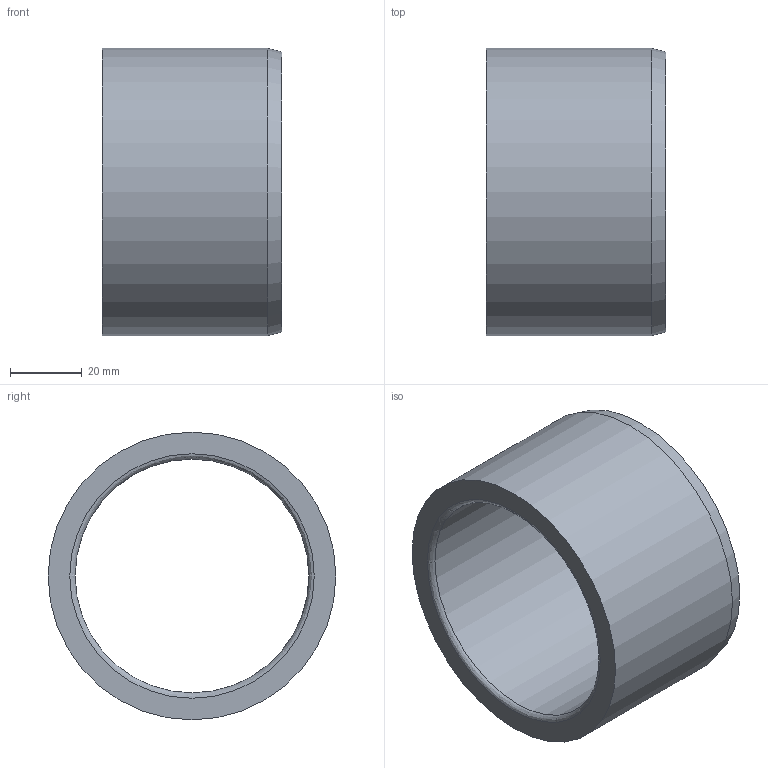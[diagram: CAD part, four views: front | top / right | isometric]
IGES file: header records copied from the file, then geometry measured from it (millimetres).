
Global section: file name: BG04.658050.ipt; native system: Autodesk Inventor 2021; preprocessor: unknown; author: SM; date: 20211217.163752; units: millimetre
Bounding box: 50 x 80 x 80 mm (x, y, z)
Volume: 84678.9 mm3; surface area: 25687.9 mm2
Topology: 1 solids, 1 shells, 7 faces, 18 edges, 13 vertices
Faces by surface type: revolution 3, plane 2, cylinder 1, cone 1
Full cylindrical faces by diameter (mm): 80 x1
